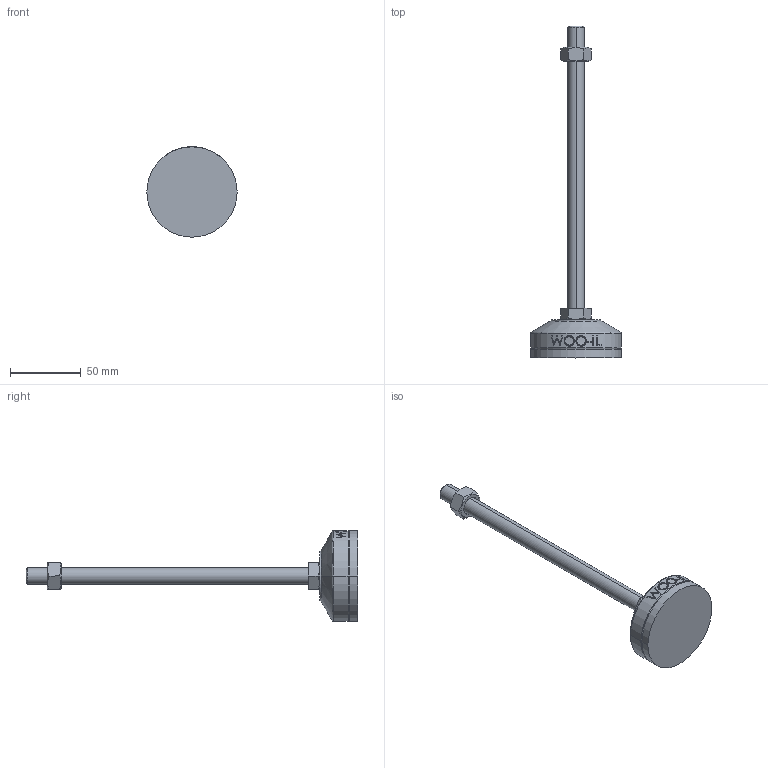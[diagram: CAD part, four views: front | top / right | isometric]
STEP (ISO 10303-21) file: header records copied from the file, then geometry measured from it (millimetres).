
FILE_DESCRIPTION (( 'STEP AP214' ), '1' );
FILE_NAME ('MFZR64-M12-200.step', '2021-03-29T06:55:09', ( '' ), ( '' ), 'SwSTEP 2.0', 'SolidWorks 2019', '' );
FILE_SCHEMA (( 'AUTOMOTIVE_DESIGN' ));
Length unit declared in the file: millimetre
Products named in the file (2): MFZR64-M12-200
Bounding box: 64 x 235 x 64 mm (x, y, z)
Volume: 102233.1 mm3; surface area: 26861.6 mm2
Topology: 4 solids, 4 shells, 103 faces, 235 edges, 150 vertices
Faces by surface type: plane 49, cylinder 18, bspline 16, cone 14, torus 6
Entity records: 4435 total; most frequent: CARTESIAN_POINT 2162, ORIENTED_EDGE 470, DIRECTION 417, EDGE_CURVE 235, AXIS2_PLACEMENT_3D 159, VERTEX_POINT 150, EDGE_LOOP 115, ADVANCED_FACE 103
